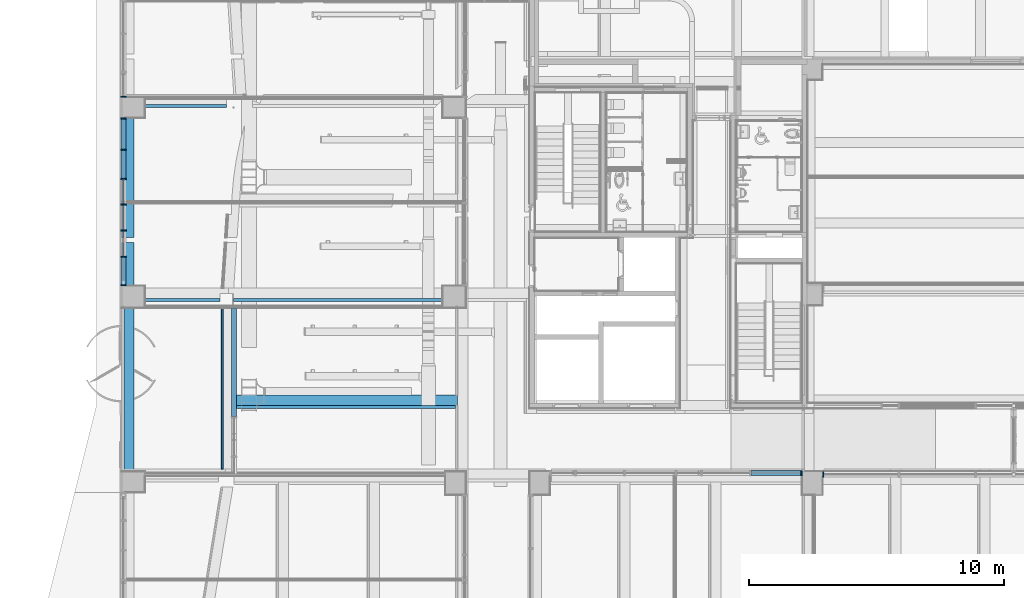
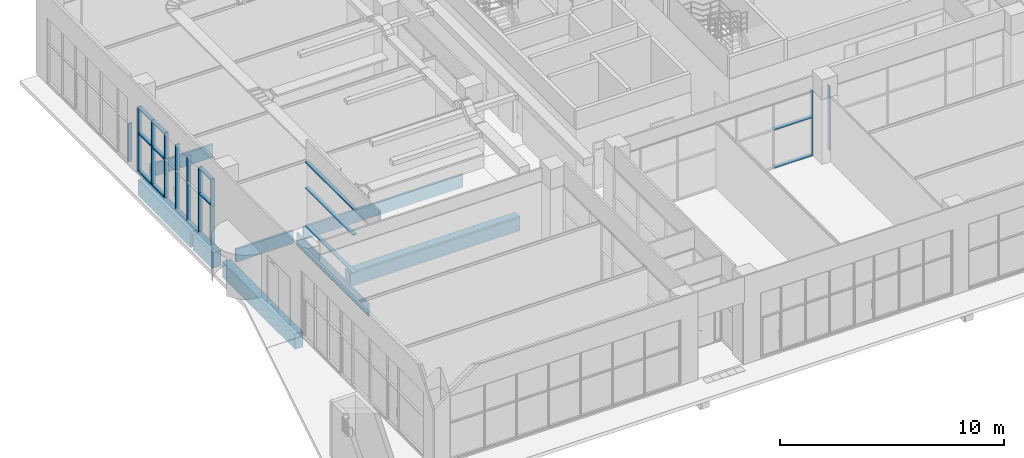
# One storey, part 8 of 100: 32 members, 9 beams, 5 elements without a shape of their own.
"""IFC2X3 building model written with IfcOpenShell, lengths in millimetres."""

import ifcopenshell
import ifcopenshell.guid

model = None  # the IFC model being written
_history = None  # IfcOwnerHistory: only IFC2X3 demands one
_inside = {}  # id of a spatial element -> (the spatial element, [elements in it])
_under = {}  # id of a project, library or spatial element -> (it, [spatial elements below it])
_declared = {}  # id of a project -> (the project, [libraries it declares])
_typed = {}  # id of a type object -> (the type object, [elements of that type])
_made_of = {}  # id of a material, layer set ... -> (it, [elements and type objects made of it])


def new_model(schema):
    """Start an empty IFC model of exactly this schema.

    Asked for "IFC4X3", IfcOpenShell would pick the latest addendum, in which some entities
    have other attributes; the version numbers below select the first issue.
    IFC2X3 requires an IfcOwnerHistory on every rooted entity: one is made here for all.
    """
    global model, _history
    if schema == "IFC4X3":
        model = ifcopenshell.file(schema_version=(4, 3, 0, 0))
    else:
        model = ifcopenshell.file(schema=schema)
    _inside.clear()
    _under.clear()
    _declared.clear()
    _typed.clear()
    _made_of.clear()
    _history = None
    if model.schema == "IFC2X3":
        org = make("IfcOrganization", Name="unknown")
        user = make(
            "IfcPersonAndOrganization",
            ThePerson=make("IfcPerson", FamilyName="unknown"),
            TheOrganization=org,
        )
        app = make(
            "IfcApplication",
            ApplicationDeveloper=org,
            Version="unknown",
            ApplicationFullName="unknown",
            ApplicationIdentifier="unknown",
        )
        _history = make(
            "IfcOwnerHistory",
            OwningUser=user,
            OwningApplication=app,
            ChangeAction="ADDED",
            CreationDate=0,
        )
    return model


def make(cls, **values):
    """One entity of the class cls with the attributes given. An attribute that is None is left unset."""
    return model.create_entity(
        cls, **{name: value for name, value in values.items() if value is not None}
    )


def entity(cls, *values):
    """Any entity or typed value of the class cls, its attributes in the order of the schema. None: left unset."""
    e = model.create_entity(cls)
    for i, value in enumerate(values):
        if value is not None:
            e[i] = value
    return e


def rooted(cls, **values):
    """An entity with a GlobalId (a new one), such as an element, a storey or a relation."""
    return make(cls, GlobalId=ifcopenshell.guid.new(), OwnerHistory=_history, **values)


def si_unit(unit_type, name, prefix=None):
    """IfcSIUnit, for example si_unit("LENGTHUNIT", "METRE", prefix="MILLI")."""
    return make("IfcSIUnit", UnitType=unit_type, Prefix=prefix, Name=name)


def converted_unit(unit_type, name, factor, base, dimensions=None, offset=None):
    """IfcConversionBasedUnit, such as the inch: factor (a typed value) times the base unit."""
    return make(
        "IfcConversionBasedUnit"
        if offset is None
        else "IfcConversionBasedUnitWithOffset",
        ConversionOffset=offset,
        Dimensions=None
        if dimensions is None
        else entity("IfcDimensionalExponents", *dimensions),
        UnitType=unit_type,
        Name=name,
        ConversionFactor=make(
            "IfcMeasureWithUnit", ValueComponent=factor, UnitComponent=base
        ),
    )


def derived_unit(unit_type, elements):
    """IfcDerivedUnit: a product of units, each with its exponent."""
    return make(
        "IfcDerivedUnit",
        Elements=[
            make("IfcDerivedUnitElement", Unit=unit, Exponent=power)
            for unit, power in elements
        ],
        UnitType=unit_type,
    )


def assignment(units):
    """IfcUnitAssignment: the units of a project."""
    return None if units is None else make("IfcUnitAssignment", Units=units)


def point(xyz):
    """IfcCartesianPoint."""
    return None if xyz is None else make("IfcCartesianPoint", Coordinates=xyz)


def direction(xyz):
    """IfcDirection."""
    return None if xyz is None else make("IfcDirection", DirectionRatios=xyz)


def frame(location, z_axis=None, x_axis=None):
    """IfcAxis2Placement3D, a coordinate frame: its origin and axes. An axis left out is left unset."""
    return make(
        "IfcAxis2Placement3D",
        Location=point(location),
        Axis=direction(z_axis),
        RefDirection=direction(x_axis),
    )


def frame_2d(location, x_axis=None):
    """IfcAxis2Placement2D, a coordinate frame in the plane: its origin and x axis."""
    return make(
        "IfcAxis2Placement2D", Location=point(location), RefDirection=direction(x_axis)
    )


def origin():
    """The frame at (0, 0, 0) with its axes left unset."""
    return frame((0.0, 0.0, 0.0))


def origin_2d_with_axis():
    """The frame at (0, 0) in the plane with the x axis (1, 0) written out."""
    return frame_2d((0.0, 0.0), x_axis=(1.0, 0.0))


def place(relative_to, where):
    """IfcLocalPlacement: puts the frame where relative to a parent placement (None: the world)."""
    return make(
        "IfcLocalPlacement", PlacementRelTo=relative_to, RelativePlacement=where
    )


def context(
    kind, dimensions, precision=None, world=None, true_north=None, identifier=None
):
    """IfcGeometricRepresentationContext, for example the 3D "Model" context."""
    return make(
        "IfcGeometricRepresentationContext",
        ContextIdentifier=identifier,
        ContextType=kind,
        CoordinateSpaceDimension=dimensions,
        Precision=precision,
        WorldCoordinateSystem=world,
        TrueNorth=true_north,
    )


def subcontext(parent, identifier, kind, view, scale=None):
    """IfcGeometricRepresentationSubContext, for example "Body" below "Model"."""
    return make(
        "IfcGeometricRepresentationSubContext",
        ContextIdentifier=identifier,
        ContextType=kind,
        ParentContext=parent,
        TargetScale=scale,
        TargetView=view,
    )


def project(units=None, contexts=None):
    """IfcProject with its units and contexts."""
    return rooted(
        "IfcProject",
        Name="project",
        RepresentationContexts=contexts,
        UnitsInContext=assignment(units),
    )


def spatial(cls, under=None, at=None, **own):
    """A site, building, storey or space (cls), placed at a placement, below another one or the project."""
    s = rooted(cls, ObjectPlacement=at, **own)
    if under is not None:
        _under.setdefault(under.id(), (under, []))[1].append(s)
    return s


def profile(cls, at=None, kind="AREA", **sizes):
    """A parametric profile (cls). Its sizes go by their IFC names, for example OverallWidth=200.0."""
    return make(cls, ProfileType=kind, Position=at, **sizes)


def rectangle(**sizes):
    """IfcRectangleProfileDef."""
    return profile("IfcRectangleProfileDef", **sizes)


def extrude(swept, where, along, depth):
    """IfcExtrudedAreaSolid: the profile swept, set in the frame where, extruded along a direction by depth."""
    return make(
        "IfcExtrudedAreaSolid",
        SweptArea=swept,
        Position=where,
        ExtrudedDirection=direction(along),
        Depth=depth,
    )


def shape(context_of_items, identifier, shape_type, items):
    """IfcShapeRepresentation: the items that make up one representation, for example the "Body"."""
    return make(
        "IfcShapeRepresentation",
        ContextOfItems=context_of_items,
        RepresentationIdentifier=identifier,
        RepresentationType=shape_type,
        Items=items,
    )


def source(mapping_origin, context_of_items, identifier, shape_type, items):
    """IfcRepresentationMap: a shape defined once, which mapped items show again and again."""
    return make(
        "IfcRepresentationMap",
        MappingOrigin=mapping_origin,
        MappedRepresentation=shape(context_of_items, identifier, shape_type, items),
    )


def transform(
    local_origin,
    x_axis=None,
    y_axis=None,
    z_axis=None,
    scale=None,
    scale2=None,
    scale3=None,
    uniform=True,
):
    """IfcCartesianTransformationOperator3D, or its non-uniform kind. x_axis, y_axis, z_axis: its Axis1, 2, 3."""
    if uniform:
        return make(
            "IfcCartesianTransformationOperator3D",
            Axis1=direction(x_axis),
            Axis2=direction(y_axis),
            LocalOrigin=point(local_origin),
            Scale=scale,
            Axis3=direction(z_axis),
        )
    return make(
        "IfcCartesianTransformationOperator3DnonUniform",
        Axis1=direction(x_axis),
        Axis2=direction(y_axis),
        LocalOrigin=point(local_origin),
        Scale=scale,
        Axis3=direction(z_axis),
        Scale2=scale2,
        Scale3=scale3,
    )


def mapped(mapping_source, mapping_target):
    """IfcMappedItem: shows the shape of a source again, moved by a transform."""
    return make(
        "IfcMappedItem", MappingSource=mapping_source, MappingTarget=mapping_target
    )


def material(Name=None, Category=None):
    """IfcMaterial."""
    return make("IfcMaterial", Name=Name, Category=Category)


def material_list(materials):
    """IfcMaterialList."""
    return make("IfcMaterialList", Materials=materials)


def made_of(thing, what):
    """Note that an element or type object is made of a material, layer set ...; save() writes the relation."""
    if what is not None:
        _made_of.setdefault(what.id(), (what, []))[1].append(thing)
    return thing


def type_object(cls, material=None, **own):
    """A type object (cls), such as IfcWallType, which elements share."""
    return made_of(rooted(cls, **own), material)


def type_shapes(of_type, sources):
    """Give a type object the sources (RepresentationMaps) that its elements show as mapped items."""
    of_type.RepresentationMaps = sources


def element(
    cls,
    number,
    at=None,
    inside=None,
    cuts=None,
    type_object=None,
    material=None,
    context=None,
    identifier="Body",
    shape_type=None,
    held_by="IfcProductDefinitionShape",
    body=None,
    shapes=None,
    **own,
):
    """One element of the class cls, such as IfcWall. Its Tag is "e" and its number.

    at: its placement. inside: the storey or other place that contains it. cuts: it is an
    opening in that element (IfcRelVoidsElement). A single representation is given by context,
    identifier, shape_type and body (its items); several are given by shapes. held_by: the class
    of the entity that holds the representations. save() writes the other relations.
    """
    e = rooted(cls, Tag="e%d" % number, ObjectPlacement=at, **own)
    if body is not None:
        shapes = [shape(context, identifier, shape_type, body)]
    if shapes is not None:
        e.Representation = make(held_by, Representations=shapes)
    if inside is not None:
        _inside.setdefault(inside.id(), (inside, []))[1].append(e)
    if cuts is not None:
        rooted(
            "IfcRelVoidsElement", RelatingBuildingElement=cuts, RelatedOpeningElement=e
        )
    if type_object is not None:
        _typed.setdefault(type_object.id(), (type_object, []))[1].append(e)
    return made_of(e, material)


def aggregate(whole, parts):
    """IfcRelAggregates: a whole, such as a stair, and the parts it consists of."""
    return rooted("IfcRelAggregates", RelatingObject=whole, RelatedObjects=parts)


def save(model, path):
    """Write the relations noted so far, then the file.

    IfcRelAggregates (storeys below a building ...), IfcRelContainedInSpatialStructure (elements
    in a storey), IfcRelDefinesByType, IfcRelAssociatesMaterial and IfcRelDeclares: one each for
    every whole, place, type object, material and project.
    """
    for whole, parts in _under.values():
        aggregate(whole, parts)
    for where, things in _inside.values():
        rooted(
            "IfcRelContainedInSpatialStructure",
            RelatedElements=things,
            RelatingStructure=where,
        )
    for kind, things in _typed.values():
        rooted("IfcRelDefinesByType", RelatedObjects=things, RelatingType=kind)
    for what, things in _made_of.values():
        rooted("IfcRelAssociatesMaterial", RelatedObjects=things, RelatingMaterial=what)
    for by, libraries in _declared.values():
        rooted("IfcRelDeclares", RelatingContext=by, RelatedDefinitions=libraries)
    model.write(path)


model = new_model("IFC2X3")

# Units and contexts
model_context = context("Model", 3, precision=0.01, world=origin(), true_north=direction((6.123031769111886e-17, 1.0)))
body_context = subcontext(model_context, "Body", "Model", "MODEL_VIEW")
ifc_project = project(units=[si_unit("LENGTHUNIT", "METRE", prefix="MILLI"), si_unit("AREAUNIT", "SQUARE_METRE"), si_unit("VOLUMEUNIT", "CUBIC_METRE"), converted_unit("PLANEANGLEUNIT", "DEGREE", entity("IfcRatioMeasure", 0.017453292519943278), si_unit("PLANEANGLEUNIT", "RADIAN"), dimensions=[0, 0, 0, 0, 0, 0, 0]), si_unit("MASSUNIT", "GRAM", prefix="KILO"), derived_unit("MASSDENSITYUNIT", [(si_unit("MASSUNIT", "GRAM", prefix="KILO"), 1), (si_unit("LENGTHUNIT", "METRE"), -3)]), derived_unit("MOMENTOFINERTIAUNIT", [(si_unit("LENGTHUNIT", "METRE"), 4)]), si_unit("TIMEUNIT", "SECOND"), si_unit("FREQUENCYUNIT", "HERTZ"), si_unit("THERMODYNAMICTEMPERATUREUNIT", "DEGREE_CELSIUS"), derived_unit("THERMALTRANSMITTANCEUNIT", [(si_unit("MASSUNIT", "GRAM", prefix="KILO"), 1), (si_unit("THERMODYNAMICTEMPERATUREUNIT", "KELVIN"), -1), (si_unit("TIMEUNIT", "SECOND"), -3)]), derived_unit("VOLUMETRICFLOWRATEUNIT", [(si_unit("LENGTHUNIT", "METRE"), 3), (si_unit("TIMEUNIT", "SECOND"), -1)]), derived_unit("MASSFLOWRATEUNIT", [(si_unit("MASSUNIT", "GRAM", prefix="KILO"), 1), (si_unit("TIMEUNIT", "SECOND"), -1)]), derived_unit("ROTATIONALFREQUENCYUNIT", [(si_unit("TIMEUNIT", "SECOND"), -1)]), si_unit("ELECTRICCURRENTUNIT", "AMPERE"), si_unit("ELECTRICVOLTAGEUNIT", "VOLT"), si_unit("POWERUNIT", "WATT"), si_unit("FORCEUNIT", "NEWTON", prefix="KILO"), si_unit("ILLUMINANCEUNIT", "LUX"), si_unit("LUMINOUSFLUXUNIT", "LUMEN"), si_unit("LUMINOUSINTENSITYUNIT", "CANDELA"), derived_unit("USERDEFINED", [(si_unit("MASSUNIT", "GRAM", prefix="KILO"), -1), (si_unit("LENGTHUNIT", "METRE"), -2), (si_unit("TIMEUNIT", "SECOND"), 3), (si_unit("LUMINOUSFLUXUNIT", "LUMEN"), 1)]), derived_unit("SOUNDPOWERUNIT", [(si_unit("MASSUNIT", "GRAM", prefix="KILO"), 1), (si_unit("LENGTHUNIT", "METRE"), 2), (si_unit("TIMEUNIT", "SECOND"), -3)]), derived_unit("SOUNDPRESSUREUNIT", [(si_unit("MASSUNIT", "GRAM", prefix="KILO"), 1), (si_unit("LENGTHUNIT", "METRE"), -1), (si_unit("TIMEUNIT", "SECOND"), -2)]), derived_unit("LINEARVELOCITYUNIT", [(si_unit("LENGTHUNIT", "METRE"), 1), (si_unit("TIMEUNIT", "SECOND"), -1)]), si_unit("PRESSUREUNIT", "PASCAL"), derived_unit("USERDEFINED", [(si_unit("LENGTHUNIT", "METRE"), -2), (si_unit("MASSUNIT", "GRAM", prefix="KILO"), 1), (si_unit("TIMEUNIT", "SECOND"), -2)]), derived_unit("LINEARFORCEUNIT", [(si_unit("MASSUNIT", "GRAM", prefix="KILO"), 1), (si_unit("LENGTHUNIT", "METRE"), 1), (si_unit("TIMEUNIT", "SECOND"), -2), (si_unit("LENGTHUNIT", "METRE"), -1)]), derived_unit("PLANARFORCEUNIT", [(si_unit("MASSUNIT", "GRAM", prefix="KILO"), 1), (si_unit("LENGTHUNIT", "METRE"), 1), (si_unit("TIMEUNIT", "SECOND"), -2), (si_unit("LENGTHUNIT", "METRE"), -2)])], contexts=[model_context])

# Site, building, storey
site_placement = place(None, frame((-14167.972527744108, -657.2125860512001, 0.0)))
site = spatial("IfcSite", under=ifc_project, at=site_placement, Name="Default", CompositionType="ELEMENT")
building_placement = place(site_placement, origin())
building = spatial("IfcBuilding", under=site, at=building_placement, Name="Sample Building", CompositionType="ELEMENT")
storey_placement = place(building_placement, origin())
storey = spatial("IfcBuildingStorey", under=building, at=storey_placement, Name="지상 1층", CompositionType="ELEMENT", Elevation=0.0)

# Curtain wall, member
curtain_wall_type = type_object("IfcCurtainWallType", Name="커튼월:CW112-스테인리스 스틸 커튼월", PredefinedType="NOTDEFINED")
curtain_wall_1_placement = place(storey_placement, origin())
curtain_wall_1 = element("IfcCurtainWall", 1, at=curtain_wall_1_placement, inside=storey, type_object=curtain_wall_type, Name="커튼월:CW112-스테인리스 스틸 커튼월", ObjectType="커튼월:CW112-스테인리스 스틸 커튼월")
ifc_material_1 = material(Name="<Unnamed>")
member_type_1 = type_object("IfcMemberType", Name="직사각형 멀리언:CW200-직사각형 멀리언 50x200mm", PredefinedType="MULLION", material=ifc_material_1)
shared_shape_1 = source(origin(), body_context, "Body", "SweptSolid", [
    extrude(rectangle(XDim=200.0, YDim=50.0, at=origin_2d_with_axis()), frame((-25.0, 0.0, -1175.0), z_axis=(0.0, 0.0, 1.0), x_axis=(0.0, -1.0, 0.0)), (0.0, 0.0, 1.0), 1175.0000000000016),
])
type_shapes(member_type_1, [shared_shape_1])
member_1_placement = place(curtain_wall_1_placement, frame((14129.839654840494, 26907.194891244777, 80.0), z_axis=(0.0, 1.0, 0.0), x_axis=(0.0, 0.0, -1.0)))
member_1 = element("IfcMember", 2, at=member_1_placement, type_object=member_type_1, material=ifc_material_1, Name="직사각형 멀리언:CW200-직사각형 멀리언 50x200mm", ObjectType="직사각형 멀리언:CW200-직사각형 멀리언 50x200mm", context=body_context, shape_type="MappedRepresentation", body=[
    mapped(shared_shape_1, transform((0.0, 0.0, 0.0), scale=1.0)),
])

curtain_wall_2_placement = place(storey_placement, origin())
curtain_wall_2 = element("IfcCurtainWall", 3, at=curtain_wall_2_placement, inside=storey, type_object=curtain_wall_type, Name="커튼월:CW112-스테인리스 스틸 커튼월", ObjectType="커튼월:CW112-스테인리스 스틸 커튼월")
member_type_2 = type_object("IfcMemberType", Name="직사각형 멀리언:CW200-직사각형 멀리언 50x200mm", PredefinedType="MULLION", material=ifc_material_1)
shared_shape_2 = source(origin(), body_context, "Body", "SweptSolid", [
    extrude(rectangle(XDim=200.0, YDim=50.0, at=origin_2d_with_axis()), frame((-25.0, 0.0, -2100.0), z_axis=(0.0, 0.0, 1.0), x_axis=(0.0, -1.0, 0.0)), (0.0, 0.0, 1.0), 2100.0),
])
type_shapes(member_type_2, [shared_shape_2])
member_2_placement = place(curtain_wall_2_placement, frame((14130.455105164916, 27757.195169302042, 80.0), z_axis=(0.0, 0.0, -1.0), x_axis=(0.0, -1.0, 0.0)))
member_2 = element("IfcMember", 4, at=member_2_placement, type_object=member_type_2, material=ifc_material_1, Name="직사각형 멀리언:CW200-직사각형 멀리언 50x200mm", ObjectType="직사각형 멀리언:CW200-직사각형 멀리언 50x200mm", context=body_context, shape_type="MappedRepresentation", body=[
    mapped(shared_shape_2, transform((0.0, 0.0, 0.0), scale=1.0)),
])
aggregate(curtain_wall_2, [member_2])

# Member
member_3_placement = place(curtain_wall_1_placement, frame((14129.839654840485, 20357.19489124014, 80.0), z_axis=(0.0, 0.0, -1.0), x_axis=(0.0, -1.0, 0.0)))
member_3 = element("IfcMember", 5, at=member_3_placement, type_object=member_type_2, material=ifc_material_1, Name="직사각형 멀리언:CW200-직사각형 멀리언 50x200mm", ObjectType="직사각형 멀리언:CW200-직사각형 멀리언 50x200mm", context=body_context, shape_type="MappedRepresentation", body=[
    mapped(shared_shape_2, transform((0.0, 0.0, 0.0), scale=1.0)),
])

member_type_3 = type_object("IfcMemberType", Name="직사각형 멀리언:CW200-직사각형 멀리언 50x200mm", PredefinedType="MULLION", material=ifc_material_1)
shared_shape_3 = source(origin(), body_context, "Body", "SweptSolid", [
    extrude(rectangle(XDim=200.0, YDim=50.0, at=origin_2d_with_axis()), frame((-25.0, 0.0, -1420.0), z_axis=(0.0, 0.0, 1.0), x_axis=(0.0, -1.0, 0.0)), (0.0, 0.0, 1.0), 1420.0000000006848),
])
type_shapes(member_type_3, [shared_shape_3])
member_4_placement = place(curtain_wall_1_placement, frame((14129.839654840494, 26957.19489124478, 3600.0), z_axis=(0.0, 0.0, 1.0), x_axis=(0.0, 1.0, 0.0)))
member_4 = element("IfcMember", 6, at=member_4_placement, type_object=member_type_3, material=ifc_material_1, Name="직사각형 멀리언:CW200-직사각형 멀리언 50x200mm", ObjectType="직사각형 멀리언:CW200-직사각형 멀리언 50x200mm", context=body_context, shape_type="MappedRepresentation", body=[
    mapped(shared_shape_3, transform((0.0, 0.0, 0.0), scale=1.0)),
])

member_type_4 = type_object("IfcMemberType", Name="직사각형 멀리언:CW200-직사각형 멀리언 50x200mm", PredefinedType="MULLION", material=ifc_material_1)
shared_shape_4 = source(origin(), body_context, "Body", "SweptSolid", [
    extrude(rectangle(XDim=200.0, YDim=50.0, at=origin_2d_with_axis()), frame((-25.0, 0.0, -1175.0), z_axis=(0.0, 0.0, 1.0), x_axis=(0.0, -1.0, 0.0)), (0.0, 0.0, 1.0), 1175.000000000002),
])
type_shapes(member_type_4, [shared_shape_4])
member_5_placement = place(curtain_wall_1_placement, frame((14129.839654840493, 25732.177624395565, 3600.0), z_axis=(0.0, -1.0, 0.0), x_axis=(0.0, 0.0, 1.0)))
member_5 = element("IfcMember", 7, at=member_5_placement, type_object=member_type_4, material=ifc_material_1, Name="직사각형 멀리언:CW200-직사각형 멀리언 50x200mm", ObjectType="직사각형 멀리언:CW200-직사각형 멀리언 50x200mm", context=body_context, shape_type="MappedRepresentation", body=[
    mapped(shared_shape_4, transform((0.0, 0.0, 0.0), scale=1.0)),
])

member_type_5 = type_object("IfcMemberType", Name="직사각형 멀리언:CW200-직사각형 멀리언 50x200mm", PredefinedType="MULLION", material=ifc_material_1)
shared_shape_5 = source(origin(), body_context, "Body", "SweptSolid", [
    extrude(rectangle(XDim=200.0, YDim=50.0, at=origin_2d_with_axis()), frame((-25.0, 0.0, -1100.0), z_axis=(0.0, 0.0, 1.0), x_axis=(0.0, -1.0, 0.0)), (0.0, 0.0, 1.0), 1100.0000000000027),
])
type_shapes(member_type_5, [shared_shape_5])
member_6_placement = place(curtain_wall_1_placement, frame((14129.839654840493, 25682.17762439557, 80.0), z_axis=(0.0, 1.0, 0.0), x_axis=(0.0, 0.0, -1.0)))
member_6 = element("IfcMember", 8, at=member_6_placement, type_object=member_type_5, material=ifc_material_1, Name="직사각형 멀리언:CW200-직사각형 멀리언 50x200mm", ObjectType="직사각형 멀리언:CW200-직사각형 멀리언 50x200mm", context=body_context, shape_type="MappedRepresentation", body=[
    mapped(shared_shape_5, transform((0.0, 0.0, 0.0), scale=1.0)),
])

member_type_6 = type_object("IfcMemberType", Name="직사각형 멀리언:CW200-직사각형 멀리언 50x200mm", PredefinedType="MULLION", material=ifc_material_1)
shared_shape_6 = source(origin(), body_context, "Body", "SweptSolid", [
    extrude(rectangle(XDim=200.0, YDim=50.0, at=origin_2d_with_axis()), frame((0.0, 0.0, -2100.0), z_axis=(0.0, 0.0, 1.0), x_axis=(0.0, -1.0, 0.0)), (0.0, 0.0, 1.0), 2100.0),
])
type_shapes(member_type_6, [shared_shape_6])
member_7_placement = place(curtain_wall_1_placement, frame((14129.839654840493, 25707.177624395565, 80.0), z_axis=(0.0, 0.0, -1.0), x_axis=(0.0, -1.0, 0.0)))
member_7 = element("IfcMember", 9, at=member_7_placement, type_object=member_type_6, material=ifc_material_1, Name="직사각형 멀리언:CW200-직사각형 멀리언 50x200mm", ObjectType="직사각형 멀리언:CW200-직사각형 멀리언 50x200mm", context=body_context, shape_type="MappedRepresentation", body=[
    mapped(shared_shape_6, transform((0.0, 0.0, 0.0), scale=1.0)),
])

member_8_placement = place(curtain_wall_1_placement, frame((14129.839654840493, 24557.177624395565, 80.0), z_axis=(0.0, 0.0, -1.0), x_axis=(0.0, -1.0, 0.0)))
member_8 = element("IfcMember", 10, at=member_8_placement, type_object=member_type_6, material=ifc_material_1, Name="직사각형 멀리언:CW200-직사각형 멀리언 50x200mm", ObjectType="직사각형 멀리언:CW200-직사각형 멀리언 50x200mm", context=body_context, shape_type="MappedRepresentation", body=[
    mapped(shared_shape_6, transform((0.0, 0.0, 0.0), scale=1.0)),
])

member_9_placement = place(curtain_wall_1_placement, frame((14129.83965484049, 23557.177624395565, 80.0), z_axis=(0.0, 0.0, -1.0), x_axis=(0.0, -1.0, 0.0)))
member_9 = element("IfcMember", 11, at=member_9_placement, type_object=member_type_6, material=ifc_material_1, Name="직사각형 멀리언:CW200-직사각형 멀리언 50x200mm", ObjectType="직사각형 멀리언:CW200-직사각형 멀리언 50x200mm", context=body_context, shape_type="MappedRepresentation", body=[
    mapped(shared_shape_6, transform((0.0, 0.0, 0.0), scale=1.0)),
])

member_10_placement = place(curtain_wall_1_placement, frame((14129.839654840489, 22532.177624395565, 80.0), z_axis=(0.0, 0.0, -1.0), x_axis=(0.0, -1.0, 0.0)))
member_10 = element("IfcMember", 12, at=member_10_placement, type_object=member_type_6, material=ifc_material_1, Name="직사각형 멀리언:CW200-직사각형 멀리언 50x200mm", ObjectType="직사각형 멀리언:CW200-직사각형 멀리언 50x200mm", context=body_context, shape_type="MappedRepresentation", body=[
    mapped(shared_shape_6, transform((0.0, 0.0, 0.0), scale=1.0)),
])

member_11_placement = place(curtain_wall_1_placement, frame((14129.839654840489, 21507.177624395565, 80.0), z_axis=(0.0, 0.0, -1.0), x_axis=(0.0, -1.0, 0.0)))
member_11 = element("IfcMember", 13, at=member_11_placement, type_object=member_type_6, material=ifc_material_1, Name="직사각형 멀리언:CW200-직사각형 멀리언 50x200mm", ObjectType="직사각형 멀리언:CW200-직사각형 멀리언 50x200mm", context=body_context, shape_type="MappedRepresentation", body=[
    mapped(shared_shape_6, transform((0.0, 0.0, 0.0), scale=1.0)),
])

member_type_7 = type_object("IfcMemberType", Name="직사각형 멀리언:CW200-직사각형 멀리언 50x200mm", PredefinedType="MULLION", material=ifc_material_1)
shared_shape_7 = source(origin(), body_context, "Body", "SweptSolid", [
    extrude(rectangle(XDim=200.0, YDim=50.0, at=origin_2d_with_axis()), frame((-25.0, 0.0, -1100.0), z_axis=(0.0, 0.0, 1.0), x_axis=(0.0, -1.0, 0.0)), (0.0, 0.0, 1.0), 1100.0000000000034),
])
type_shapes(member_type_7, [shared_shape_7])
member_12_placement = place(curtain_wall_1_placement, frame((14129.839654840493, 24582.17762439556, 3600.0), z_axis=(0.0, -1.0, 0.0), x_axis=(0.0, 0.0, 1.0)))
member_12 = element("IfcMember", 14, at=member_12_placement, type_object=member_type_7, material=ifc_material_1, Name="직사각형 멀리언:CW200-직사각형 멀리언 50x200mm", ObjectType="직사각형 멀리언:CW200-직사각형 멀리언 50x200mm", context=body_context, shape_type="MappedRepresentation", body=[
    mapped(shared_shape_7, transform((0.0, 0.0, 0.0), scale=1.0)),
])

member_type_8 = type_object("IfcMemberType", Name="직사각형 멀리언:CW200-직사각형 멀리언 50x200mm", PredefinedType="MULLION", material=ifc_material_1)
shared_shape_8 = source(origin(), body_context, "Body", "SweptSolid", [
    extrude(rectangle(XDim=200.0, YDim=50.0, at=origin_2d_with_axis()), frame((-25.0, 0.0, -1420.0), z_axis=(0.0, 0.0, 1.0), x_axis=(0.0, -1.0, 0.0)), (0.0, 0.0, 1.0), 1420.0000000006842),
])
type_shapes(member_type_8, [shared_shape_8])
member_13_placement = place(curtain_wall_1_placement, frame((14129.839654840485, 20357.19489124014, 2180.0), z_axis=(0.0, 0.0, -1.0), x_axis=(0.0, -1.0, 0.0)))
member_13 = element("IfcMember", 15, at=member_13_placement, type_object=member_type_8, material=ifc_material_1, Name="직사각형 멀리언:CW200-직사각형 멀리언 50x200mm", ObjectType="직사각형 멀리언:CW200-직사각형 멀리언 50x200mm", context=body_context, shape_type="MappedRepresentation", body=[
    mapped(shared_shape_8, transform((0.0, 0.0, 0.0), scale=1.0)),
])

# Curtain wall, member
curtain_wall_3_placement = place(storey_placement, origin())
curtain_wall_3 = element("IfcCurtainWall", 16, at=curtain_wall_3_placement, inside=storey, type_object=curtain_wall_type, Name="커튼월:CW112-스테인리스 스틸 커튼월", ObjectType="커튼월:CW112-스테인리스 스틸 커튼월")
member_14_placement = place(curtain_wall_3_placement, frame((41567.97249113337, 12957.212383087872, 2180.0), z_axis=(0.0, 0.0, -1.0), x_axis=(-1.0, 0.0, 0.0)))
member_14 = element("IfcMember", 17, at=member_14_placement, type_object=member_type_8, material=ifc_material_1, Name="직사각형 멀리언:CW200-직사각형 멀리언 50x200mm", ObjectType="직사각형 멀리언:CW200-직사각형 멀리언 50x200mm", context=body_context, shape_type="MappedRepresentation", body=[
    mapped(shared_shape_8, transform((0.0, 0.0, 0.0), scale=1.0)),
])

curtain_wall_4_placement = place(storey_placement, origin())
curtain_wall_4 = element("IfcCurtainWall", 18, at=curtain_wall_4_placement, inside=storey, type_object=curtain_wall_type, Name="커튼월:CW112-스테인리스 스틸 커튼월", ObjectType="커튼월:CW112-스테인리스 스틸 커튼월")
member_15_placement = place(curtain_wall_4_placement, frame((40767.972491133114, 13012.212586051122, 2180.0), z_axis=(0.0, 0.0, -1.0), x_axis=(1.0, 0.0, 0.0)))
member_15 = element("IfcMember", 19, at=member_15_placement, type_object=member_type_8, material=ifc_material_1, Name="직사각형 멀리언:CW200-직사각형 멀리언 50x200mm", ObjectType="직사각형 멀리언:CW200-직사각형 멀리언 50x200mm", context=body_context, shape_type="MappedRepresentation", body=[
    mapped(shared_shape_8, transform((0.0, 0.0, 0.0), scale=1.0)),
])

# Member
member_type_9 = type_object("IfcMemberType", Name="직사각형 멀리언:CW200-직사각형 멀리언 50x200mm", PredefinedType="MULLION", material=ifc_material_1)
shared_shape_9 = source(origin(), body_context, "Body", "SweptSolid", [
    extrude(rectangle(XDim=200.0, YDim=50.0, at=origin_2d_with_axis()), frame((-25.0, 0.0, -2100.0), z_axis=(0.0, 0.0, 1.0), x_axis=(0.0, -1.0, 0.0)), (0.0, 0.0, 1.0), 2099.9999999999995),
])
type_shapes(member_type_9, [shared_shape_9])
member_16_placement = place(curtain_wall_1_placement, frame((14129.839654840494, 26957.19489124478, 2180.0), z_axis=(0.0, 0.0, 1.0), x_axis=(0.0, 1.0, 0.0)))
member_16 = element("IfcMember", 20, at=member_16_placement, type_object=member_type_9, material=ifc_material_1, Name="직사각형 멀리언:CW200-직사각형 멀리언 50x200mm", ObjectType="직사각형 멀리언:CW200-직사각형 멀리언 50x200mm", context=body_context, shape_type="MappedRepresentation", body=[
    mapped(shared_shape_9, transform((0.0, 0.0, 0.0), scale=1.0)),
])

member_type_10 = type_object("IfcMemberType", Name="직사각형 멀리언:CW200-직사각형 멀리언 50x200mm", PredefinedType="MULLION", material=ifc_material_1)
shared_shape_10 = source(origin(), body_context, "Body", "SweptSolid", [
    extrude(rectangle(XDim=200.0, YDim=50.0, at=origin_2d_with_axis()), frame((0.0, 0.0, -1175.0), z_axis=(0.0, 0.0, 1.0), x_axis=(0.0, -1.0, 0.0)), (0.0, 0.0, 1.0), 1175.0000000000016),
])
type_shapes(member_type_10, [shared_shape_10])
member_17_placement = place(curtain_wall_1_placement, frame((14129.839654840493, 25732.177624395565, 2180.0), z_axis=(0.0, -1.0, 0.0), x_axis=(0.0, 0.0, 1.0)))
member_17 = element("IfcMember", 21, at=member_17_placement, type_object=member_type_10, material=ifc_material_1, Name="직사각형 멀리언:CW200-직사각형 멀리언 50x200mm", ObjectType="직사각형 멀리언:CW200-직사각형 멀리언 50x200mm", context=body_context, shape_type="MappedRepresentation", body=[
    mapped(shared_shape_10, transform((0.0, 0.0, 0.0), scale=1.0)),
])

member_type_11 = type_object("IfcMemberType", Name="직사각형 멀리언:CW200-직사각형 멀리언 50x200mm", PredefinedType="MULLION", material=ifc_material_1)
shared_shape_11 = source(origin(), body_context, "Body", "SweptSolid", [
    extrude(rectangle(XDim=200.0, YDim=50.0, at=origin_2d_with_axis()), frame((0.0, 0.0, -1100.0), z_axis=(0.0, 0.0, 1.0), x_axis=(0.0, -1.0, 0.0)), (0.0, 0.0, 1.0), 1100.0000000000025),
])
type_shapes(member_type_11, [shared_shape_11])
member_18_placement = place(curtain_wall_1_placement, frame((14129.839654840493, 24582.17762439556, 2180.0), z_axis=(0.0, -1.0, 0.0), x_axis=(0.0, 0.0, 1.0)))
member_18 = element("IfcMember", 22, at=member_18_placement, type_object=member_type_11, material=ifc_material_1, Name="직사각형 멀리언:CW200-직사각형 멀리언 50x200mm", ObjectType="직사각형 멀리언:CW200-직사각형 멀리언 50x200mm", context=body_context, shape_type="MappedRepresentation", body=[
    mapped(shared_shape_11, transform((0.0, 0.0, 0.0), scale=1.0)),
])

member_type_12 = type_object("IfcMemberType", Name="직사각형 멀리언:CW200-직사각형 멀리언 50x200mm", PredefinedType="MULLION", material=ifc_material_1)
shared_shape_12 = source(origin(), body_context, "Body", "SweptSolid", [
    extrude(rectangle(XDim=200.0, YDim=50.0, at=origin_2d_with_axis()), frame((0.0, 0.0, -1420.0), z_axis=(0.0, 0.0, 1.0), x_axis=(0.0, -1.0, 0.0)), (0.0, 0.0, 1.0), 1420.0000000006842),
])
type_shapes(member_type_12, [shared_shape_12])
member_19_placement = place(curtain_wall_1_placement, frame((14129.839654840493, 25707.177624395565, 2180.0), z_axis=(0.0, 0.0, -1.0), x_axis=(0.0, -1.0, 0.0)))
member_19 = element("IfcMember", 23, at=member_19_placement, type_object=member_type_12, material=ifc_material_1, Name="직사각형 멀리언:CW200-직사각형 멀리언 50x200mm", ObjectType="직사각형 멀리언:CW200-직사각형 멀리언 50x200mm", context=body_context, shape_type="MappedRepresentation", body=[
    mapped(shared_shape_12, transform((0.0, 0.0, 0.0), scale=1.0)),
])

member_20_placement = place(curtain_wall_1_placement, frame((14129.839654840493, 24557.177624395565, 2180.0), z_axis=(0.0, 0.0, -1.0), x_axis=(0.0, -1.0, 0.0)))
member_20 = element("IfcMember", 24, at=member_20_placement, type_object=member_type_12, material=ifc_material_1, Name="직사각형 멀리언:CW200-직사각형 멀리언 50x200mm", ObjectType="직사각형 멀리언:CW200-직사각형 멀리언 50x200mm", context=body_context, shape_type="MappedRepresentation", body=[
    mapped(shared_shape_12, transform((0.0, 0.0, 0.0), scale=1.0)),
])

member_21_placement = place(curtain_wall_1_placement, frame((14129.83965484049, 23557.177624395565, 2180.0), z_axis=(0.0, 0.0, -1.0), x_axis=(0.0, -1.0, 0.0)))
member_21 = element("IfcMember", 25, at=member_21_placement, type_object=member_type_12, material=ifc_material_1, Name="직사각형 멀리언:CW200-직사각형 멀리언 50x200mm", ObjectType="직사각형 멀리언:CW200-직사각형 멀리언 50x200mm", context=body_context, shape_type="MappedRepresentation", body=[
    mapped(shared_shape_12, transform((0.0, 0.0, 0.0), scale=1.0)),
])

member_22_placement = place(curtain_wall_1_placement, frame((14129.839654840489, 22532.177624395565, 2180.0), z_axis=(0.0, 0.0, -1.0), x_axis=(0.0, -1.0, 0.0)))
member_22 = element("IfcMember", 26, at=member_22_placement, type_object=member_type_12, material=ifc_material_1, Name="직사각형 멀리언:CW200-직사각형 멀리언 50x200mm", ObjectType="직사각형 멀리언:CW200-직사각형 멀리언 50x200mm", context=body_context, shape_type="MappedRepresentation", body=[
    mapped(shared_shape_12, transform((0.0, 0.0, 0.0), scale=1.0)),
])

member_23_placement = place(curtain_wall_1_placement, frame((14129.839654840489, 21507.177624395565, 2180.0), z_axis=(0.0, 0.0, -1.0), x_axis=(0.0, -1.0, 0.0)))
member_23 = element("IfcMember", 27, at=member_23_placement, type_object=member_type_12, material=ifc_material_1, Name="직사각형 멀리언:CW200-직사각형 멀리언 50x200mm", ObjectType="직사각형 멀리언:CW200-직사각형 멀리언 50x200mm", context=body_context, shape_type="MappedRepresentation", body=[
    mapped(shared_shape_12, transform((0.0, 0.0, 0.0), scale=1.0)),
])

member_type_13 = type_object("IfcMemberType", Name="직사각형 멀리언:CW200-직사각형 멀리언 50x200mm", PredefinedType="MULLION", material=ifc_material_1)
shared_shape_13 = source(origin(), body_context, "Body", "SweptSolid", [
    extrude(rectangle(XDim=200.0, YDim=50.0, at=origin_2d_with_axis()), frame((-25.0, 0.0, -1075.0), z_axis=(0.0, 0.0, 1.0), x_axis=(0.0, -1.0, 0.0)), (0.0, 0.0, 1.0), 1074.9999999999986),
])
type_shapes(member_type_13, [shared_shape_13])
member_24_placement = place(curtain_wall_1_placement, frame((14129.839654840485, 20407.19489124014, 3600.0), z_axis=(0.0, -1.0, 0.0), x_axis=(0.0, 0.0, 1.0)))
member_24 = element("IfcMember", 28, at=member_24_placement, type_object=member_type_13, material=ifc_material_1, Name="직사각형 멀리언:CW200-직사각형 멀리언 50x200mm", ObjectType="직사각형 멀리언:CW200-직사각형 멀리언 50x200mm", context=body_context, shape_type="MappedRepresentation", body=[
    mapped(shared_shape_13, transform((0.0, 0.0, 0.0), scale=1.0)),
])

member_type_14 = type_object("IfcMemberType", Name="직사각형 멀리언:CW200-직사각형 멀리언 50x200mm", PredefinedType="MULLION", material=ifc_material_1)
shared_shape_14 = source(origin(), body_context, "Body", "SweptSolid", [
    extrude(rectangle(XDim=200.0, YDim=50.0, at=origin_2d_with_axis()), frame((0.0, 0.0, -1075.0), z_axis=(0.0, 0.0, 1.0), x_axis=(0.0, -1.0, 0.0)), (0.0, 0.0, 1.0), 1074.9999999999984),
])
type_shapes(member_type_14, [shared_shape_14])
member_25_placement = place(curtain_wall_1_placement, frame((14129.839654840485, 20407.19489124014, 2180.0), z_axis=(0.0, -1.0, 0.0), x_axis=(0.0, 0.0, 1.0)))
member_25 = element("IfcMember", 29, at=member_25_placement, type_object=member_type_14, material=ifc_material_1, Name="직사각형 멀리언:CW200-직사각형 멀리언 50x200mm", ObjectType="직사각형 멀리언:CW200-직사각형 멀리언 50x200mm", context=body_context, shape_type="MappedRepresentation", body=[
    mapped(shared_shape_14, transform((0.0, 0.0, 0.0), scale=1.0)),
])

aggregate(curtain_wall_1, [member_24, member_1, member_3, member_4, member_5, member_6, member_7, member_12, member_8, member_9, member_13, member_16, member_17, member_18, member_19, member_20, member_21, member_10, member_22, member_25, member_11, member_23])

member_type_15 = type_object("IfcMemberType", Name="직사각형 멀리언:CW200-직사각형 멀리언 50x200mm", PredefinedType="MULLION", material=ifc_material_1)
shared_shape_15 = source(origin(), body_context, "Body", "SweptSolid", [
    extrude(rectangle(XDim=200.0, YDim=50.0, at=origin_2d_with_axis()), frame((-25.0, 0.0, -2100.0), z_axis=(0.0, 0.0, 1.0), x_axis=(0.0, -1.0, 0.0)), (0.0, 0.0, 1.0), 2100.0),
])
type_shapes(member_type_15, [shared_shape_15])
member_26_placement = place(curtain_wall_3_placement, frame((41567.97249113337, 12957.212383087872, 80.0), z_axis=(0.0, 0.0, -1.0), x_axis=(-1.0, 0.0, 0.0)))
member_26 = element("IfcMember", 30, at=member_26_placement, type_object=member_type_15, material=ifc_material_1, Name="직사각형 멀리언:CW200-직사각형 멀리언 50x200mm", ObjectType="직사각형 멀리언:CW200-직사각형 멀리언 50x200mm", context=body_context, shape_type="MappedRepresentation", body=[
    mapped(shared_shape_15, transform((0.0, 0.0, 0.0), scale=1.0)),
])

aggregate(curtain_wall_3, [member_26, member_14])

member_27_placement = place(curtain_wall_4_placement, frame((40767.972491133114, 13012.212586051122, 80.0), z_axis=(0.0, 0.0, -1.0), x_axis=(1.0, 0.0, 0.0)))
member_27 = element("IfcMember", 31, at=member_27_placement, type_object=member_type_15, material=ifc_material_1, Name="직사각형 멀리언:CW200-직사각형 멀리언 50x200mm", ObjectType="직사각형 멀리언:CW200-직사각형 멀리언 50x200mm", context=body_context, shape_type="MappedRepresentation", body=[
    mapped(shared_shape_15, transform((0.0, 0.0, 0.0), scale=1.0)),
])

# Curtain wall, members
curtain_wall_5_placement = place(storey_placement, origin())
curtain_wall_5 = element("IfcCurtainWall", 32, at=curtain_wall_5_placement, inside=storey, type_object=curtain_wall_type, Name="커튼월:CW112-스테인리스 스틸 커튼월", ObjectType="커튼월:CW112-스테인리스 스틸 커튼월")
member_type_16 = type_object("IfcMemberType", Name="직사각형 멀리언:CW200-직사각형 멀리언 50x200mm", PredefinedType="MULLION", material=ifc_material_1)
shared_shape_16 = source(origin(), body_context, "Body", "SweptSolid", [
    extrude(rectangle(XDim=200.0, YDim=50.0, at=origin_2d_with_axis()), frame((-25.0, 0.0, -4262.409290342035), z_axis=(0.0, 0.0, 1.0), x_axis=(0.0, -1.0, 0.0)), (0.0, 0.0, 1.0), 4262.409290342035),
])
type_shapes(member_type_16, [shared_shape_16])
member_28_placement = place(curtain_wall_5_placement, frame((18467.963798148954, 19494.67762439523, 80.0), z_axis=(0.0, 1.0, 0.0), x_axis=(0.0, 0.0, -1.0)))
member_28 = element("IfcMember", 33, at=member_28_placement, type_object=member_type_16, material=ifc_material_1, Name="직사각형 멀리언:CW200-직사각형 멀리언 50x200mm", ObjectType="직사각형 멀리언:CW200-직사각형 멀리언 50x200mm", context=body_context, shape_type="MappedRepresentation", body=[
    mapped(shared_shape_16, transform((0.0, 0.0, 0.0), scale=1.0)),
])
member_type_17 = type_object("IfcMemberType", Name="직사각형 멀리언:CW200-직사각형 멀리언 50x200mm", PredefinedType="MULLION", material=ifc_material_1)
shared_shape_17 = source(origin(), body_context, "Body", "SweptSolid", [
    extrude(rectangle(XDim=200.0, YDim=50.0, at=origin_2d_with_axis()), frame((-25.0, 0.0, -4287.409290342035), z_axis=(0.0, 0.0, 1.0), x_axis=(0.0, -1.0, 0.0)), (0.0, 0.0, 1.0), 4287.409290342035),
])
type_shapes(member_type_17, [shared_shape_17])
member_29_placement = place(curtain_wall_5_placement, frame((18467.963798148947, 15207.268334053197, 3600.0), z_axis=(0.0, -1.0, 0.0), x_axis=(0.0, 0.0, 1.0)))
member_29 = element("IfcMember", 34, at=member_29_placement, type_object=member_type_17, material=ifc_material_1, Name="직사각형 멀리언:CW200-직사각형 멀리언 50x200mm", ObjectType="직사각형 멀리언:CW200-직사각형 멀리언 50x200mm", context=body_context, shape_type="MappedRepresentation", body=[
    mapped(shared_shape_17, transform((0.0, 0.0, 0.0), scale=1.0)),
])
member_type_18 = type_object("IfcMemberType", Name="직사각형 멀리언:CW200-직사각형 멀리언 50x200mm", PredefinedType="MULLION", material=ifc_material_1)
shared_shape_18 = source(origin(), body_context, "Body", "SweptSolid", [
    extrude(rectangle(XDim=200.0, YDim=50.0, at=origin_2d_with_axis()), frame((0.0, 0.0, -4262.409290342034), z_axis=(0.0, 0.0, 1.0), x_axis=(0.0, -1.0, 0.0)), (0.0, 0.0, 1.0), 4262.409290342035),
])
type_shapes(member_type_18, [shared_shape_18])
member_30_placement = place(curtain_wall_5_placement, frame((18467.963798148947, 15232.268334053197, 2180.0), z_axis=(0.0, -1.0, 0.0), x_axis=(0.0, 0.0, 1.0)))
member_30 = element("IfcMember", 35, at=member_30_placement, type_object=member_type_18, material=ifc_material_1, Name="직사각형 멀리언:CW200-직사각형 멀리언 50x200mm", ObjectType="직사각형 멀리언:CW200-직사각형 멀리언 50x200mm", context=body_context, shape_type="MappedRepresentation", body=[
    mapped(shared_shape_18, transform((0.0, 0.0, 0.0), scale=1.0)),
])
aggregate(curtain_wall_5, [member_28, member_29, member_30])

# Member
member_type_19 = type_object("IfcMemberType", Name="직사각형 멀리언:CW200-직사각형 멀리언 50x200mm", PredefinedType="MULLION", material=ifc_material_1)
shared_shape_19 = source(origin(), body_context, "Body", "SweptSolid", [
    extrude(rectangle(XDim=200.0, YDim=50.0, at=origin_2d_with_axis()), frame((-25.0, 0.0, -1960.0), z_axis=(0.0, 0.0, 1.0), x_axis=(0.0, -1.0, 0.0)), (0.0, 0.0, 1.0), 1960.000000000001),
])
type_shapes(member_type_19, [shared_shape_19])
member_31_placement = place(curtain_wall_4_placement, frame((38757.97249113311, 13012.21258605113, 80.0), z_axis=(-1.0, 0.0, 0.0), x_axis=(0.0, 0.0, -1.0)))
member_31 = element("IfcMember", 36, at=member_31_placement, type_object=member_type_19, material=ifc_material_1, Name="직사각형 멀리언:CW200-직사각형 멀리언 50x200mm", ObjectType="직사각형 멀리언:CW200-직사각형 멀리언 50x200mm", context=body_context, shape_type="MappedRepresentation", body=[
    mapped(shared_shape_19, transform((0.0, 0.0, 0.0), scale=1.0)),
])

member_type_20 = type_object("IfcMemberType", Name="직사각형 멀리언:CW200-직사각형 멀리언 50x200mm", PredefinedType="MULLION", material=ifc_material_1)
shared_shape_20 = source(origin(), body_context, "Body", "SweptSolid", [
    extrude(rectangle(XDim=200.0, YDim=50.0, at=origin_2d_with_axis()), frame((0.0, 0.0, -1960.0), z_axis=(0.0, 0.0, 1.0), x_axis=(0.0, -1.0, 0.0)), (0.0, 0.0, 1.0), 1960.000000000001),
])
type_shapes(member_type_20, [shared_shape_20])
member_32_placement = place(curtain_wall_4_placement, frame((40717.972491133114, 13012.212586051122, 2180.0), z_axis=(1.0, 0.0, 0.0), x_axis=(0.0, 0.0, 1.0)))
member_32 = element("IfcMember", 37, at=member_32_placement, type_object=member_type_20, material=ifc_material_1, Name="직사각형 멀리언:CW200-직사각형 멀리언 50x200mm", ObjectType="직사각형 멀리언:CW200-직사각형 멀리언 50x200mm", context=body_context, shape_type="MappedRepresentation", body=[
    mapped(shared_shape_20, transform((0.0, 0.0, 0.0), scale=1.0)),
])

aggregate(curtain_wall_4, [member_27, member_15, member_31, member_32])

# Beams
ifc_material_2 = material(Name="KBIMS-콘크리트")
beam_type_1 = type_object("IfcBeamType", Name="BM111-철근콘크리트구조 보:BM110-철근 콘크리트구조 보_400 x 850_B1-1G3", PredefinedType="NOTDEFINED")
beam_1_placement = place(storey_placement, frame((14517.955105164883, 19957.212617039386, 0.0)))
element("IfcBeam", 38, at=beam_1_placement, inside=storey, type_object=beam_type_1, material=ifc_material_2, Name="BM111-철근콘크리트구조 보:BM110-철근 콘크리트구조 보_400 x 850_B1-1G3", ObjectType="BM111-철근콘크리트구조 보:BM110-철근 콘크리트구조 보_400 x 850_B1-1G3", context=body_context, shape_type="SweptSolid", body=[
    extrude(rectangle(XDim=700.0000000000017, YDim=113.86449812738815, at=frame_2d((0.0, 2.1671553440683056e-12), x_axis=(1.0, 0.0))), frame((450.0, -143.06775093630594, -500.0), z_axis=(1.0, 0.0, 0.0), x_axis=(0.0, 0.0, -1.0)), (0.0, 0.0, 1.0), 2949.991343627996),
])
beam_2_placement = place(storey_placement, frame((14517.955086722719, 27557.212617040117, 0.0)))
element("IfcBeam", 39, at=beam_2_placement, inside=storey, type_object=beam_type_1, material=ifc_material_2, Name="BM111-철근콘크리트구조 보:BM110-철근 콘크리트구조 보_400 x 850_B1-1G3", ObjectType="BM111-철근콘크리트구조 보:BM110-철근 콘크리트구조 보_400 x 850_B1-1G3", context=body_context, shape_type="SweptSolid", body=[
    extrude(rectangle(XDim=700.0000000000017, YDim=113.86449812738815, at=frame_2d((0.0, -2.1671553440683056e-12), x_axis=(1.0, 0.0))), frame((450.0, -143.06775093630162, -500.0), z_axis=(1.0, 0.0, 0.0), x_axis=(0.0, 0.0, -1.0)), (0.0, 0.0, 1.0), 3199.9913620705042),
])
ifc_material_list = material_list([ifc_material_2, ifc_material_2])
beam_type_2 = type_object("IfcBeamType", Name="BM111-철근콘크리트구조 보:BM110-철근 콘크리트구조 보_400 x 850_B1-1G2", PredefinedType="BEAM", material=ifc_material_list)
beam_3_placement = place(storey_placement, frame((14343.245899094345, 12771.07711516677, 0.0), z_axis=(0.0, 0.0, 1.0), x_axis=(0.0, 1.0, 0.0)))
element("IfcBeam", 40, at=beam_3_placement, inside=storey, type_object=beam_type_2, material=ifc_material_2, Name="BM111-철근콘크리트구조 보:BM110-철근 콘크리트구조 보_400 x 850_B1-1G2", ObjectType="BM111-철근콘크리트구조 보:BM110-철근 콘크리트구조 보_400 x 850_B1-1G2", context=body_context, shape_type="SweptSolid", body=[
    extrude(rectangle(XDim=849.9999999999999, YDim=400.0000000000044, at=frame_2d((5.684341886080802e-14, 1.0800249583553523e-12), x_axis=(1.0, 0.0))), frame((287.0, 0.0, -825.0), z_axis=(1.0, 0.0, 0.0), x_axis=(0.0, 0.0, -1.0)), (0.0, 0.0, 1.0), 6499.135501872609),
])
beam_4_placement = place(storey_placement, frame((27117.955141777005, 19957.212617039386, 0.0), z_axis=(0.0, 0.0, 1.0), x_axis=(-1.0, 0.0, 0.0)))
element("IfcBeam", 41, at=beam_4_placement, inside=storey, type_object=beam_type_2, material=ifc_material_2, Name="BM111-철근콘크리트구조 보:BM110-철근 콘크리트구조 보_400 x 850_B1-1G2", ObjectType="BM111-철근콘크리트구조 보:BM110-철근 콘크리트구조 보_400 x 850_B1-1G2", context=body_context, shape_type="SweptSolid", body=[
    extrude(rectangle(XDim=700.0000000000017, YDim=113.86449812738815, at=frame_2d((0.0, -2.1671553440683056e-12), x_axis=(1.0, 0.0))), frame((450.0, 143.06775093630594, -500.0), z_axis=(1.0, 0.0, 0.0), x_axis=(0.0, 0.0, -1.0)), (0.0, 0.0, 1.0), 8224.709242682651),
])
beam_type_3 = type_object("IfcBeamType", Name="BM111-철근콘크리트구조 보:BM110-철근 콘크리트구조 보_400 x 850_B1-1G4", PredefinedType="NOTDEFINED")
beam_5_placement = place(storey_placement, frame((18167.946448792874, 12757.212564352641, 0.0), z_axis=(0.0, 0.0, 1.0), x_axis=(0.0, 1.0, 0.0)))
element("IfcBeam", 42, at=beam_5_placement, inside=storey, type_object=beam_type_3, material=ifc_material_2, Name="BM111-철근콘크리트구조 보:BM110-철근 콘크리트구조 보_400 x 850_B1-1G4", ObjectType="BM111-철근콘크리트구조 보:BM110-철근 콘크리트구조 보_400 x 850_B1-1G4", context=body_context, shape_type="SweptSolid", body=[
    extrude(rectangle(XDim=700.0000000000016, YDim=75.29945030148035, at=frame_2d((0.0, -1.0835776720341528e-12), x_axis=(1.0, 0.0))), frame((413.86448527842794, 162.3502748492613, -500.0), z_axis=(1.0, 0.0, 0.0), x_axis=(0.0, 0.0, -1.0)), (0.0, 0.0, 1.0), 6386.135567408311),
])
beam_type_4 = type_object("IfcBeamType", Name="BM111-철근콘크리트구조 보:BM110-철근 콘크리트구조 보_400 x 850_B1-1B1", PredefinedType="BEAM", material=ifc_material_2)
beam_6_placement = place(storey_placement, frame((18243.245899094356, 15871.077060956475, 0.0)))
element("IfcBeam", 43, at=beam_6_placement, inside=storey, type_object=beam_type_4, material=ifc_material_2, Name="BM111-철근콘크리트구조 보:BM110-철근 콘크리트구조 보_400 x 850_B1-1B1", ObjectType="BM111-철근콘크리트구조 보:BM110-철근 콘크리트구조 보_400 x 850_B1-1B1", context=body_context, shape_type="SweptSolid", body=[
    extrude(rectangle(XDim=700.0000000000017, YDim=400.00000000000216, at=frame_2d((0.0, 1.0942358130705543e-12), x_axis=(1.0, 0.0))), frame((200.0, 0.0, -500.0), z_axis=(1.0, 0.0, 0.0), x_axis=(0.0, 0.0, -1.0)), (0.0, 0.0, 1.0), 8799.628806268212),
])
beam_7_placement = place(storey_placement, frame((18167.94644879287, 15757.212562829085, 0.0)))
element("IfcBeam", 44, at=beam_7_placement, inside=storey, type_object=beam_type_4, material=ifc_material_2, Name="BM111-철근콘크리트구조 보:BM110-철근 콘크리트구조 보_400 x 850_B1-1B1", ObjectType="BM111-철근콘크리트구조 보:BM110-철근 콘크리트구조 보_400 x 850_B1-1B1", context=body_context, shape_type="SweptSolid", body=[
    extrude(rectangle(XDim=700.0000000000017, YDim=113.86449812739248, at=origin_2d_with_axis()), frame((275.2994503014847, -143.06775093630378, -500.0), z_axis=(1.0, 0.0, 0.0), x_axis=(0.0, 0.0, -1.0)), (0.0, 0.0, 1.0), 8724.329355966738),
])
beam_type_5 = type_object("IfcBeamType", Name="BM111-철근콘크리트구조 보:BM110-철근 콘크리트구조 보_400 x 850_B1-1G2", PredefinedType="BEAM", material=ifc_material_2)
shared_shape_21 = source(origin(), body_context, "Body", "SweptSolid", [
    extrude(rectangle(XDim=849.9999999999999, YDim=400.00000000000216, at=frame_2d((-3.254285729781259e-12, 5.684341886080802e-14), x_axis=(0.0, 1.0))), frame((14343.245899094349, 26957.07711516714, -825.0), z_axis=(0.0, -1.0, 0.0), x_axis=(-1.0, 0.0, 0.0)), (0.0, 0.0, 1.0), 4699.864807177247),
    extrude(rectangle(XDim=849.9999999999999, YDim=400.00000000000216, at=frame_2d((-1.0942358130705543e-12, 5.684341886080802e-14), x_axis=(0.0, 1.0))), frame((14343.245899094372, 22057.212307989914, -825.0), z_axis=(0.0, -1.0, 0.0), x_axis=(-1.0, 0.0, 0.0)), (0.0, 0.0, 1.0), 1699.9996909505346),
])
type_shapes(beam_type_5, [shared_shape_21])
beam_8_placement = place(storey_placement, origin())
element("IfcBeam", 45, at=beam_8_placement, inside=storey, type_object=beam_type_5, material=ifc_material_2, Name="BM111-철근콘크리트구조 보:BM110-철근 콘크리트구조 보_400 x 850_B1-1G2", ObjectType="BM111-철근콘크리트구조 보:BM110-철근 콘크리트구조 보_400 x 850_B1-1G2", context=body_context, shape_type="MappedRepresentation", body=[
    mapped(shared_shape_21, transform((0.0, 0.0, 0.0), scale=1.0)),
])
beam_type_6 = type_object("IfcBeamType", Name="BM111-철근콘크리트구조 보:BM110-철근 콘크리트구조 보_400 x 850_B1-1G2", PredefinedType="BEAM", material=ifc_material_2)
shared_shape_22 = source(origin(), body_context, "Body", "SweptSolid", [
    extrude(rectangle(XDim=849.9999999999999, YDim=75.29945030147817, at=frame_2d((2.163602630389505e-12, 5.684341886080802e-14), x_axis=(0.0, 1.0))), frame((14105.596173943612, 26957.21261703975, -825.0), z_axis=(0.0, -1.0, 0.0), x_axis=(-1.0, 0.0, 0.0)), (0.0, 0.0, 1.0), 4700.0003090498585),
    extrude(rectangle(XDim=849.9999999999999, YDim=75.29945030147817, at=frame_2d((-2.163602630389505e-12, 5.684341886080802e-14), x_axis=(0.0, 1.0))), frame((14105.596173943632, 22057.21230798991, -825.0), z_axis=(0.0, -1.0, 0.0), x_axis=(-1.0, 0.0, 0.0)), (0.0, 0.0, 1.0), 1699.9996909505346),
])
type_shapes(beam_type_6, [shared_shape_22])
beam_9_placement = place(storey_placement, origin())
element("IfcBeam", 46, at=beam_9_placement, inside=storey, type_object=beam_type_6, material=ifc_material_2, Name="BM111-철근콘크리트구조 보:BM110-철근 콘크리트구조 보_400 x 850_B1-1G2", ObjectType="BM111-철근콘크리트구조 보:BM110-철근 콘크리트구조 보_400 x 850_B1-1G2", context=body_context, shape_type="MappedRepresentation", body=[
    mapped(shared_shape_22, transform((0.0, 0.0, 0.0), scale=1.0)),
])

save(model, "model.ifc")
